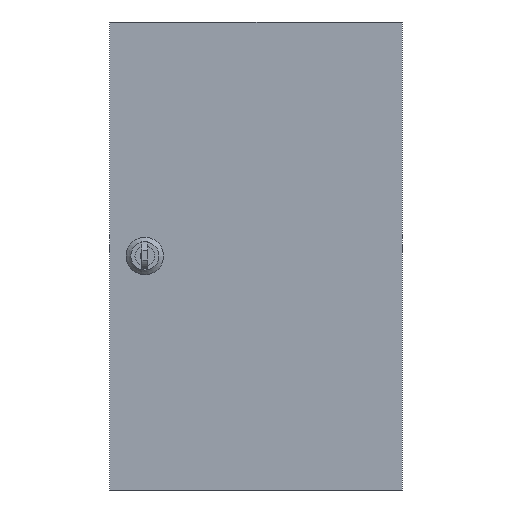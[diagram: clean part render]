
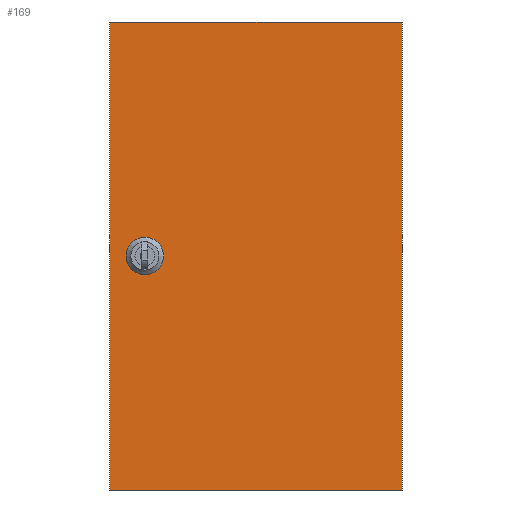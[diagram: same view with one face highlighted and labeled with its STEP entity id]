
A CAD part, front view. The second image highlights one B-rep face of the part: STEP entity #169.
In plain terms, the highlighted planar face has unit normal (0, -1, 0).
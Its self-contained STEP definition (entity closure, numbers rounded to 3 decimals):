
#119=CARTESIAN_POINT('',(125.0,-600.01,200.0));
#120=DIRECTION('',(0.0,1.0,0.0));
#121=DIRECTION('',(0.0,0.0,1.0));
#122=AXIS2_PLACEMENT_3D('',#119,#120,#121);
#123=PLANE('',#122);
#124=CARTESIAN_POINT('',(0.0,-600.01,400.0));
#125=VERTEX_POINT('',#124);
#126=CARTESIAN_POINT('',(0.0,-600.01,0.0));
#127=VERTEX_POINT('',#126);
#128=CARTESIAN_POINT('',(0.0,-600.01,400.0));
#129=DIRECTION('',(0.0,0.0,-1.0));
#130=VECTOR('',#129,400.0);
#131=LINE('',#128,#130);
#132=EDGE_CURVE('',#125,#127,#131,.T.);
#133=ORIENTED_EDGE('',*,*,#132,.T.);
#134=CARTESIAN_POINT('',(250.0,-600.01,0.0));
#135=VERTEX_POINT('',#134);
#136=CARTESIAN_POINT('',(250.0,-600.01,0.0));
#137=DIRECTION('',(-1.0,0.0,0.0));
#138=VECTOR('',#137,250.0);
#139=LINE('',#136,#138);
#140=EDGE_CURVE('',#135,#127,#139,.T.);
#141=ORIENTED_EDGE('',*,*,#140,.F.);
#142=CARTESIAN_POINT('',(250.0,-600.01,400.0));
#143=VERTEX_POINT('',#142);
#144=CARTESIAN_POINT('',(250.0,-600.01,400.0));
#145=DIRECTION('',(0.0,0.0,-1.0));
#146=VECTOR('',#145,400.0);
#147=LINE('',#144,#146);
#148=EDGE_CURVE('',#143,#135,#147,.T.);
#149=ORIENTED_EDGE('',*,*,#148,.F.);
#150=CARTESIAN_POINT('',(0.0,-600.01,400.0));
#151=DIRECTION('',(1.0,0.0,0.0));
#152=VECTOR('',#151,250.0);
#153=LINE('',#150,#152);
#154=EDGE_CURVE('',#125,#143,#153,.T.);
#155=ORIENTED_EDGE('',*,*,#154,.F.);
#156=EDGE_LOOP('',(#133,#141,#149,#155));
#157=FACE_OUTER_BOUND('',#156,.T.);
#158=CARTESIAN_POINT('',(45.989,-600.01,200.0));
#159=VERTEX_POINT('',#158);
#160=CARTESIAN_POINT('',(30.0,-600.01,200.0));
#161=DIRECTION('',(0.0,-1.0,0.0));
#162=DIRECTION('',(-1.0,0.0,0.0));
#163=AXIS2_PLACEMENT_3D('',#160,#161,#162);
#164=CIRCLE('',#163,15.989);
#165=EDGE_CURVE('',#159,#159,#164,.T.);
#166=ORIENTED_EDGE('',*,*,#165,.F.);
#167=EDGE_LOOP('',(#166));
#168=FACE_BOUND('',#167,.T.);
#169=ADVANCED_FACE('',(#157,#168),#123,.F.);
